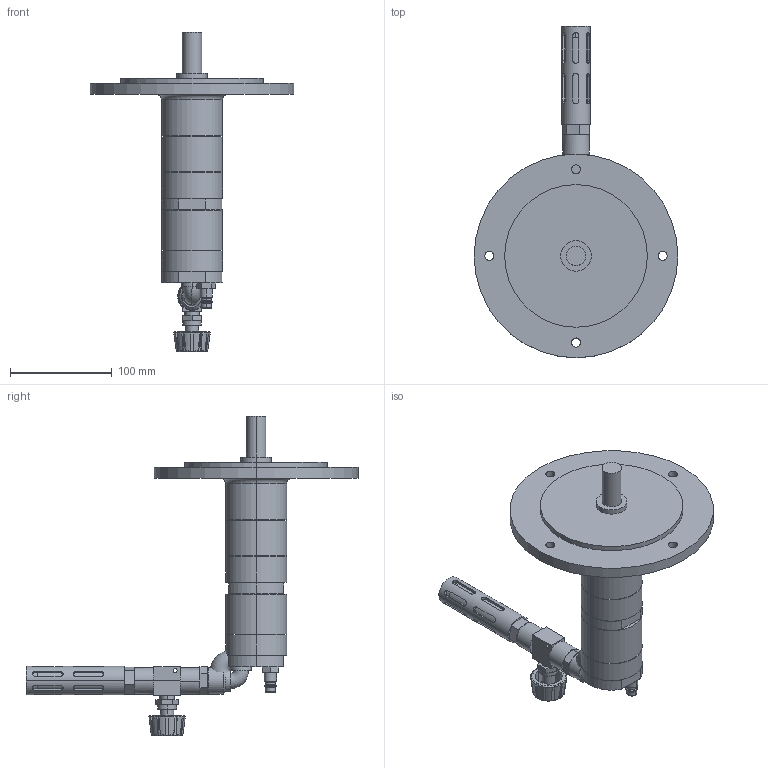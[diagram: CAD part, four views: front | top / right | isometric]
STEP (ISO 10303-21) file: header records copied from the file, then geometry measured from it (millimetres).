
FILE_DESCRIPTION (( 'STEP AP214' ), '1' );
FILE_NAME ('dddddd.STEP', '2020-02-06T14:24:04', ( '' ), ( '' ), 'SwSTEP 2.0', 'SolidWorks 2018', '' );
FILE_SCHEMA (( 'AUTOMOTIVE_DESIGN' ));
Length unit declared in the file: millimetre
Products named in the file (11): V3; Doppelnippel PM64; Stellrad V3; Winkel V3; Verschluss PLM; PM120; Stecknippel PLM; Schalldämpfer Deckel V3; dddddd; Vlies; Schalli
Assembly tree (10 placements, depth 2):
  dddddd
    PM120
    Winkel V3
    Doppelnippel PM64
    V3
    Schalli
    Vlies
    Schalldämpfer Deckel V3
    Stecknippel PLM
    Verschluss PLM
    Stellrad V3
Bounding box: 200 x 325.9 x 313.5 mm (x, y, z)
Volume: 1053216.7 mm3; surface area: 186525.1 mm2
Topology: 10 solids, 10 shells, 420 faces, 1012 edges, 648 vertices
Faces by surface type: plane 198, cylinder 164, cone 44, torus 14
Entity records: 14752 total; most frequent: CARTESIAN_POINT 4261, DIRECTION 2046, ORIENTED_EDGE 2016, EDGE_CURVE 1008, AXIS2_PLACEMENT_3D 773, VERTEX_POINT 648, EDGE_LOOP 508, VECTOR 500
